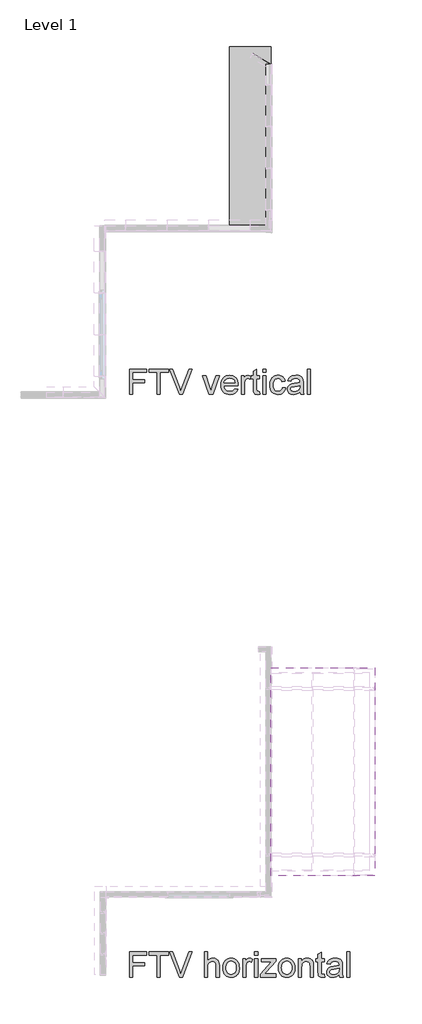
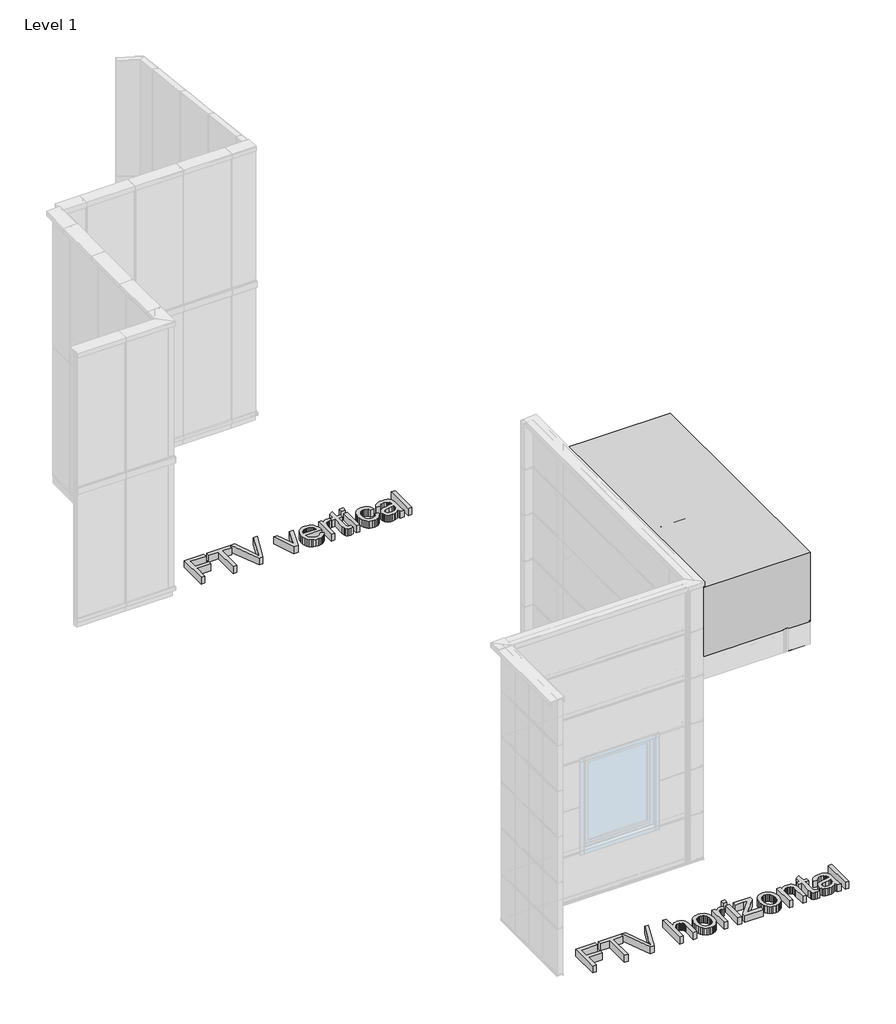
# One storey, part 16 of 16: 4 proxies.
"""IFC4 building model written with IfcOpenShell, lengths in millimetres."""

from ifc_helpers import new_model, si_unit, frame, origin, origin_with_axes, place, context, project, spatial, polyline, outline, extrude, element, save

model = new_model("IFC4")

# Units and contexts
model_context = context("Model", 3, world=origin())
ifc_project = project(units=[si_unit("LENGTHUNIT", "METRE", prefix="MILLI")], contexts=[model_context])

# Site, building, storey
site = spatial("IfcSite", under=ifc_project)
building = spatial("IfcBuilding", under=site)
storey = spatial("IfcBuildingStorey", under=building, Name="Level 1", Elevation=0.0)

# Proxies
placement = place(None, origin())
element("IfcBuildingElementProxy", 1, Name="600mm Arial", ObjectType="600mm Arial", at=placement, inside=storey, context=model_context, shape_type="SweptSolid", body=[
    extrude(outline(polyline([(-3390.6707281, -13959.8952349), (-3390.6707281, -13357.157374), (-2985.7062278, -13357.157374), (-2985.7062278, -13432.4996066), (-3315.3284955, -13432.4996066), (-3315.3284955, -13611.437409), (-3032.7951232, -13611.437409), (-3032.7951232, -13686.7796417), (-3315.3284955, -13686.7796417), (-3315.3284955, -13959.8952349), (-3390.6707281, -13959.8952349)])), origin_with_axes(), (0.0, 0.0, 1.0), 150.0),
    extrude(outline(polyline([(-2731.4261928, -13959.8952349), (-2731.4261928, -13432.4996066), (-2929.1995534, -13432.4996066), (-2929.1995534, -13357.157374), (-2458.3105995, -13357.157374), (-2458.3105995, -13432.4996066), (-2656.0839602, -13432.4996066), (-2656.0839602, -13959.8952349), (-2731.4261928, -13959.8952349)])), origin_with_axes(), (0.0, 0.0, 1.0), 150.0),
    extrude(outline(polyline([(-2195.4957022, -13959.8952349), (-2435.354763, -13357.157374), (-2354.7150297, -13357.157374), (-2194.171327, -13791.4052811), (-2161.6505586, -13889.2618918), (-2129.5712487, -13791.4052811), (-1968.5860876, -13357.157374), (-1887.9463542, -13357.157374), (-2117.651872, -13959.8952349), (-2195.4957022, -13959.8952349)])), origin_with_axes(), (0.0, 0.0, 1.0), 150.0),
    extrude(outline(polyline([(-1591.8749245, -13959.8952349), (-1591.8749245, -13357.157374), (-1516.5326919, -13357.157374), (-1516.5326919, -13578.7694879), (-1488.8587688, -13547.7386416), (-1457.7819373, -13525.5737514), (-1423.3021973, -13512.2748172), (-1385.4195488, -13507.8418392), (-1339.912546, -13512.6794874), (-1300.8066899, -13527.1924322), (-1270.0149669, -13550.2402392), (-1249.4503634, -13580.6824743), (-1237.8620805, -13622.5106571), (-1233.9993196, -13679.7163074), (-1233.9993196, -13959.8952349), (-1309.3415522, -13959.8952349), (-1309.3415522, -13687.5154057), (-1310.8406713, -13662.0763657), (-1315.3380287, -13640.3529339), (-1322.8336244, -13622.3451102), (-1333.3274583, -13608.0528947), (-1346.5712101, -13597.1727847), (-1362.3165595, -13589.4012775), (-1380.5635065, -13584.7383732), (-1401.312051, -13583.1840718), (-1433.1522377, -13587.3779266), (-1463.0426498, -13599.9594908), (-1487.8011081, -13619.7147539), (-1504.2454333, -13645.4297054), (-1513.4608772, -13679.6059428), (-1516.5326919, -13724.7450636), (-1516.5326919, -13959.8952349), (-1591.8749245, -13959.8952349)])), origin_with_axes(), (0.0, 0.0, 1.0), 150.0),
    extrude(outline(polyline([(-1149.2393079, -13738.5774266), (-1145.1650148, -13681.2522147), (-1132.9421355, -13631.8548598), (-1112.57067, -13590.3853619), (-1084.0506184, -13556.843721), (-1055.3374286, -13535.4053977), (-1023.6443948, -13520.0923096), (-988.9715167, -13510.9044568), (-951.3187945, -13507.8418392), (-909.7527276, -13511.5712429), (-872.1689832, -13522.7594541), (-838.5675615, -13541.4064727), (-808.9484624, -13567.5122988), (-784.7740168, -13600.1940156), (-767.5065556, -13638.5687062), (-757.1460789, -13682.6363707), (-753.6925867, -13732.3970091), (-755.219297, -13772.7260728), (-759.7994278, -13808.5117939), (-767.4329792, -13839.7541723), (-778.1199512, -13866.4532081), (-791.7269865, -13889.5148107), (-808.1207279, -13909.8448894), (-827.3011754, -13927.4434444), (-849.268329, -13942.3104755), (-873.1668632, -13954.1240861), (-898.1414521, -13962.5623793), (-924.1920959, -13967.6253553), (-951.3187945, -13969.313014), (-993.4918667, -13965.5974058), (-1031.425099, -13954.4505814), (-1065.1184912, -13935.8725406), (-1094.5720434, -13909.8632835), (-1118.4889716, -13876.8642686), (-1135.5724918, -13837.3169541), (-1145.8226039, -13791.2213401), (-1149.2393079, -13738.5774266)]), holes=[polyline([(-1073.8970753, -13738.4302738), (-1071.7173745, -13774.9747515), (-1065.178272, -13806.6172016), (-1054.2797679, -13833.3576241), (-1039.0218622, -13855.1960191), (-1020.4622155, -13872.1599776), (-999.6584887, -13884.2770908), (-976.6106817, -13891.5473587), (-951.3187945, -13893.9707813), (-926.155666, -13891.5335631), (-903.1998295, -13884.2219085), (-882.451285, -13872.0358174), (-863.9100324, -13854.9752899), (-848.6521267, -13832.9207642), (-837.7536226, -13805.7526789), (-831.2145201, -13773.4710338), (-829.0348193, -13736.075829), (-831.2283157, -13700.6901796), (-837.8088049, -13669.875464), (-848.7762869, -13643.6316822), (-864.1307616, -13621.9588341), (-882.7409921, -13604.9948756), (-903.475741, -13592.8777624), (-926.3350085, -13585.6074945), (-951.3187945, -13583.1840718), (-976.6106817, -13585.5982974), (-999.6584887, -13592.8409742), (-1020.4622155, -13604.9121022), (-1039.0218622, -13621.8116813), (-1054.2797679, -13643.5856969), (-1065.178272, -13670.2801342), (-1071.7173745, -13701.8949931), (-1073.8970753, -13738.4302738)])]), origin_with_axes(), (0.0, 0.0, 1.0), 150.0),
    extrude(outline(polyline([(-668.932575, -13959.8952349), (-668.932575, -13517.2596183), (-603.0081215, -13517.2596183), (-603.0081215, -13582.7426134), (-578.6543334, -13544.7771915), (-556.2135317, -13522.4099662), (-533.6991536, -13511.483871), (-509.1246363, -13507.8418392), (-471.6006728, -13513.6543747), (-433.4880981, -13531.0919813), (-458.6512266, -13598.6351156), (-485.1387302, -13587.0468328), (-511.6262339, -13583.1840718), (-534.1222179, -13586.89968), (-554.2269689, -13598.0465044), (-570.468959, -13615.7784166), (-581.3766602, -13639.2492879), (-590.5369218, -13681.3349881), (-593.5903424, -13727.2466611), (-593.5903424, -13959.8952349), (-668.932575, -13959.8952349)])), origin_with_axes(), (0.0, 0.0, 1.0), 150.0),
    extrude(outline(polyline([(-386.3992027, -13432.4996066), (-386.3992027, -13357.157374), (-311.0569701, -13357.157374), (-311.0569701, -13432.4996066), (-386.3992027, -13432.4996066)])), origin_with_axes(), (0.0, 0.0, 1.0), 150.0),
    extrude(outline(polyline([(-386.3992027, -13959.8952349), (-386.3992027, -13517.2596183), (-311.0569701, -13517.2596183), (-311.0569701, -13959.8952349), (-386.3992027, -13959.8952349)])), origin_with_axes(), (0.0, 0.0, 1.0), 150.0),
    extrude(outline(polyline([(-245.1325166, -13959.8952349), (-245.1325166, -13888.9675862), (14.8864776, -13592.6018509), (-62.0744358, -13592.6018509), (-226.2969584, -13592.6018509), (-226.2969584, -13517.2596183), (122.1608674, -13517.2596183), (122.1608674, -13581.2710854), (-108.4275672, -13844.2331356), (-143.7442387, -13884.5530023), (-56.6297822, -13884.5530023), (131.5786465, -13884.5530023), (131.5786465, -13959.8952349), (-245.1325166, -13959.8952349)])), origin_with_axes(), (0.0, 0.0, 1.0), 150.0),
    extrude(outline(polyline([(188.085321, -13738.5774266), (192.1596141, -13681.2522147), (204.3824933, -13631.8548598), (224.7539588, -13590.3853619), (253.2740105, -13556.843721), (281.9872002, -13535.4053977), (313.6802341, -13520.0923096), (348.3531122, -13510.9044568), (386.0058344, -13507.8418392), (427.5719013, -13511.5712429), (465.1556456, -13522.7594541), (498.7570674, -13541.4064727), (528.3761665, -13567.5122988), (552.5506121, -13600.1940156), (569.8180733, -13638.5687062), (580.1785499, -13682.6363707), (583.6320422, -13732.3970091), (582.1053319, -13772.7260728), (577.5252011, -13808.5117939), (569.8916497, -13839.7541723), (559.2046777, -13866.4532081), (545.5976424, -13889.5148107), (529.203901, -13909.8448894), (510.0234535, -13927.4434444), (488.0562998, -13942.3104755), (464.1577657, -13954.1240861), (439.1831768, -13962.5623793), (413.132533, -13967.6253553), (386.0058344, -13969.313014), (343.8327621, -13965.5974058), (305.8995299, -13954.4505814), (272.2061377, -13935.8725406), (242.7525854, -13909.8632835), (218.8356572, -13876.8642686), (201.7521371, -13837.3169541), (191.502025, -13791.2213401), (188.085321, -13738.5774266)]), holes=[polyline([(263.4275536, -13738.4302738), (265.6072544, -13774.9747515), (272.1463569, -13806.6172016), (283.044861, -13833.3576241), (298.3027667, -13855.1960191), (316.8624134, -13872.1599776), (337.6661402, -13884.2770908), (360.7139472, -13891.5473587), (386.0058344, -13893.9707813), (411.1689628, -13891.5335631), (434.1247993, -13884.2219085), (454.8733439, -13872.0358174), (473.4145964, -13854.9752899), (488.6725022, -13832.9207642), (499.5710063, -13805.7526789), (506.1101087, -13773.4710338), (508.2898096, -13736.075829), (506.0963132, -13700.6901796), (499.515824, -13669.875464), (488.548342, -13643.6316822), (473.1938672, -13621.9588341), (454.5836368, -13604.9948756), (433.8488878, -13592.8777624), (410.9896204, -13585.6074945), (386.0058344, -13583.1840718), (360.7139472, -13585.5982974), (337.6661402, -13592.8409742), (316.8624134, -13604.9121022), (298.3027667, -13621.8116813), (283.044861, -13643.5856969), (272.1463569, -13670.2801342), (265.6072544, -13701.8949931), (263.4275536, -13738.4302738)])]), origin_with_axes(), (0.0, 0.0, 1.0), 150.0),
    extrude(outline(polyline([(668.3920539, -13959.8952349), (668.3920539, -13517.2596183), (743.7342865, -13517.2596183), (743.7342865, -13579.0637935), (769.9090904, -13547.9041885), (801.3446069, -13525.6473278), (838.0408359, -13512.2932113), (879.9977775, -13507.8418392), (917.1354649, -13511.4286887), (951.1461554, -13522.189237), (979.5098572, -13538.780715), (999.7065787, -13559.8603533), (1013.410183, -13585.3729697), (1022.2945332, -13615.2633818), (1026.2676588, -13688.1040168), (1026.2676588, -13959.8952349), (950.9254262, -13959.8952349), (950.9254262, -13698.2575599), (948.7549224, -13659.2988566), (942.2434111, -13631.5973424), (930.2320639, -13611.7501087), (911.5620527, -13596.3542472), (887.6313289, -13586.4766157), (859.8378442, -13583.1840718), (836.9601826, -13585.0326788), (815.7103988, -13590.5784999), (796.0884929, -13599.8215351), (778.0944648, -13612.7617842), (763.0618868, -13630.8707754), (752.3243311, -13655.6200367), (745.8817976, -13687.0095679), (743.7342865, -13725.0393692), (743.7342865, -13959.8952349), (668.3920539, -13959.8952349)])), origin_with_axes(), (0.0, 0.0, 1.0), 150.0),
    extrude(outline(polyline([(1289.9654729, -13897.0609901), (1299.383252, -13962.1025269), (1243.0237303, -13969.313014), (1206.8609302, -13966.186017), (1179.89518, -13956.8050261), (1160.8388926, -13942.3472637), (1148.4044812, -13923.9899522), (1141.5618761, -13892.4624652), (1139.2810077, -13838.4941765), (1139.2810077, -13592.6018509), (1082.7743332, -13592.6018509), (1082.7743332, -13517.2596183), (1139.2810077, -13517.2596183), (1139.2810077, -13409.6909229), (1214.6232403, -13365.3979307), (1214.6232403, -13517.2596183), (1289.9654729, -13517.2596183), (1289.9654729, -13592.6018509), (1214.6232403, -13592.6018509), (1214.6232403, -13836.2868845), (1218.5963658, -13875.1352232), (1231.4722357, -13888.8940098), (1242.3431486, -13892.7015885), (1257.1503989, -13893.9707813), (1289.9654729, -13897.0609901)])), origin_with_axes(), (0.0, 0.0, 1.0), 150.0),
    extrude(outline(polyline([(1647.8410778, -13903.3885604), (1611.8438246, -13934.2538598), (1574.7797136, -13954.4505814), (1535.8026162, -13965.5974058), (1494.0664038, -13969.313014), (1460.5201644, -13967.0781308), (1431.1034004, -13960.3734815), (1405.8161117, -13949.1990659), (1384.6582985, -13933.554884), (1367.9518574, -13914.4342173), (1356.0186851, -13892.8303472), (1348.8587818, -13868.7432735), (1346.4721474, -13842.1729964), (1350.0773909, -13810.939815), (1360.8931216, -13782.5761132), (1377.5765701, -13758.2959015), (1398.7849671, -13739.3131906), (1423.7089723, -13724.9657928), (1451.5392452, -13714.5915205), (1516.7279347, -13703.260755), (1593.7624245, -13691.3413784), (1647.3996194, -13677.3618626), (1647.8410778, -13660.5864436), (1642.6539417, -13626.9620292), (1636.1700215, -13614.5092237), (1627.0925333, -13604.9626859), (1611.4023662, -13595.4345423), (1592.2908965, -13588.6287253), (1543.8040496, -13583.1840718), (1498.9224462, -13586.8077095), (1467.5789002, -13597.6786224), (1446.2049563, -13617.7833735), (1431.2321591, -13649.1085254), (1355.8899264, -13639.6907463), (1368.9681314, -13598.4879628), (1388.4842712, -13566.1143472), (1416.2593619, -13541.355889), (1454.1144192, -13522.9985774), (1500.4123683, -13511.6310238), (1553.5161343, -13507.8418392), (1604.4493965, -13511.1895654), (1644.8244455, -13521.2327438), (1675.2666806, -13536.3342997), (1696.4015012, -13554.8571582), (1710.4178052, -13577.7578124), (1719.5044905, -13605.9927555), (1723.1833104, -13671.9172091), (1723.1833104, -13765.6535414), (1727.0092832, -13896.5459553), (1732.6746659, -13928.9011768), (1742.0188686, -13959.8952349), (1666.676636, -13959.8952349), (1654.6101065, -13933.7020368), (1647.8410778, -13903.3885604)]), holes=[polyline([(1647.8410778, -13752.7040952), (1597.2205153, -13765.2488712), (1526.2928666, -13775.8070845), (1461.4720591, -13788.0207667), (1444.6046696, -13796.371688), (1432.1150758, -13807.8863945), (1424.389554, -13821.6819693), (1421.81438, -13836.8754957), (1427.4245804, -13859.2795092), (1444.2551817, -13877.6368208), (1471.9383018, -13889.8872912), (1510.1060588, -13893.9707813), (1550.5730783, -13889.4642269), (1586.3312082, -13875.9445636), (1615.3203094, -13856.0237535), (1635.4802428, -13832.313759), (1644.4197753, -13807.8863945), (1647.3996194, -13774.0412509), (1647.8410778, -13752.7040952)])]), origin_with_axes(), (0.0, 0.0, 1.0), 150.0),
    extrude(outline(polyline([(1826.7788803, -13959.8952349), (1826.7788803, -13357.157374), (1902.1211129, -13357.157374), (1902.1211129, -13959.8952349), (1826.7788803, -13959.8952349)])), origin_with_axes(), (0.0, 0.0, 1.0), 150.0),
])
element("IfcBuildingElementProxy", 2, Name="600mm Arial", ObjectType="600mm Arial", at=placement, inside=storey, context=model_context, shape_type="SweptSolid", body=[
    extrude(outline(polyline([(-3390.6707281, 40.1047651), (-3390.6707281, 642.842626), (-2985.7062278, 642.842626), (-2985.7062278, 567.5003934), (-3315.3284955, 567.5003934), (-3315.3284955, 388.562591), (-3032.7951232, 388.562591), (-3032.7951232, 313.2203583), (-3315.3284955, 313.2203583), (-3315.3284955, 40.1047651), (-3390.6707281, 40.1047651)])), origin_with_axes(), (0.0, 0.0, 1.0), 150.0),
    extrude(outline(polyline([(-2731.4261928, 40.1047651), (-2731.4261928, 567.5003934), (-2929.1995534, 567.5003934), (-2929.1995534, 642.842626), (-2458.3105995, 642.842626), (-2458.3105995, 567.5003934), (-2656.0839602, 567.5003934), (-2656.0839602, 40.1047651), (-2731.4261928, 40.1047651)])), origin_with_axes(), (0.0, 0.0, 1.0), 150.0),
    extrude(outline(polyline([(-2195.4957022, 40.1047651), (-2435.354763, 642.842626), (-2354.7150297, 642.842626), (-2194.171327, 208.5947189), (-2161.6505586, 110.7381082), (-2129.5712487, 208.5947189), (-1968.5860876, 642.842626), (-1887.9463542, 642.842626), (-2117.651872, 40.1047651), (-2195.4957022, 40.1047651)])), origin_with_axes(), (0.0, 0.0, 1.0), 150.0),
    extrude(outline(polyline([(-1483.2761595, 40.1047651), (-1638.9638199, 482.7403817), (-1559.2070033, 482.7403817), (-1464.8820598, 217.5710396), (-1436.4815697, 128.396444), (-1408.6696909, 212.5678445), (-1313.7561361, 482.7403817), (-1233.9993196, 482.7403817), (-1387.7739936, 40.1047651), (-1483.2761595, 40.1047651)])), origin_with_axes(), (0.0, 0.0, 1.0), 150.0),
    extrude(outline(polyline([(-858.1710733, 171.9536722), (-784.3003687, 162.5358931), (-795.6265356, 132.9489837), (-810.916631, 106.8753472), (-830.170655, 84.3149839), (-853.3886074, 65.2678936), (-880.331365, 50.1387465), (-910.7598045, 39.3322129), (-944.673926, 32.8482928), (-982.0737293, 30.686986), (-1028.8223338, 34.4163898), (-1070.4757727, 45.6046009), (-1107.034046, 64.2516196), (-1138.4971536, 90.3574457), (-1163.7982379, 123.1955123), (-1181.8704409, 162.0392524), (-1192.7137627, 206.8886662), (-1196.3282033, 257.7437535), (-1192.6769745, 310.3232876), (-1181.7232881, 356.667222), (-1163.4671441, 396.7755565), (-1137.9085425, 430.6482912), (-1106.5282083, 457.5588591), (-1070.8068665, 476.7806934), (-1030.7445173, 488.3137939), (-986.3411604, 492.1581608), (-943.3679449, 488.322991), (-904.5058106, 476.8174816), (-869.7547576, 457.6416326), (-839.114786, 430.795444), (-814.1034088, 396.9962857), (-796.2381394, 356.9615276), (-785.5189778, 310.6911696), (-781.9459239, 258.1852119), (-782.3873823, 237.8781257), (-1120.9859707, 237.8781257), (-1116.6219705, 207.8129697), (-1107.9445539, 181.4818159), (-1094.953721, 158.8846643), (-1077.6494716, 140.021515), (-1056.9882991, 125.1498854), (-1033.9266965, 114.5272927), (-1008.4646639, 108.1537372), (-980.6022013, 106.0292187), (-940.5030638, 109.965556), (-906.7314967, 121.774568), (-879.2874998, 142.1920188), (-858.1710733, 171.9536722)]), holes=[polyline([(-1120.9859707, 313.2203583), (-857.2881565, 313.2203583), (-867.4784878, 353.0251902), (-876.2432763, 368.6785691), (-887.4544801, 381.4992566), (-908.0006896, 396.9503004), (-931.3795904, 407.9867603), (-957.5911825, 414.6086362), (-986.635466, 416.8159282), (-1013.1275682, 415.0546931), (-1037.4215755, 409.770988), (-1059.5174878, 400.9648127), (-1079.4153052, 388.6361673), (-1096.1125493, 373.355269), (-1108.6067415, 355.6923347), (-1116.897882, 335.6473645), (-1120.9859707, 313.2203583)])]), origin_with_axes(), (0.0, 0.0, 1.0), 150.0),
    extrude(outline(polyline([(-706.6036913, 40.1047651), (-706.6036913, 482.7403817), (-640.6792378, 482.7403817), (-640.6792378, 417.2573866), (-616.3254497, 455.2228085), (-593.884648, 477.5900338), (-571.3702699, 488.516129), (-546.7957526, 492.1581608), (-509.2717891, 486.3456253), (-471.1592144, 468.9080187), (-496.3223429, 401.3648844), (-522.8098465, 412.9531672), (-549.2973502, 416.8159282), (-571.7933342, 413.10032), (-591.8980852, 401.9534956), (-608.1400753, 384.2215834), (-619.0477765, 360.7507121), (-628.2080381, 318.6650119), (-631.2614587, 272.7533389), (-631.2614587, 40.1047651), (-706.6036913, 40.1047651)])), origin_with_axes(), (0.0, 0.0, 1.0), 150.0),
    extrude(outline(polyline([(-263.9680747, 102.9390099), (-254.5502956, 37.8974731), (-310.9098173, 30.686986), (-347.0726174, 33.813983), (-374.0383677, 43.1949739), (-393.094655, 57.6527363), (-405.5290665, 76.0100478), (-412.3716716, 107.5375348), (-414.6525399, 161.5058235), (-414.6525399, 407.3981491), (-471.1592144, 407.3981491), (-471.1592144, 482.7403817), (-414.6525399, 482.7403817), (-414.6525399, 590.3090771), (-339.3103073, 634.6020693), (-339.3103073, 482.7403817), (-263.9680747, 482.7403817), (-263.9680747, 407.3981491), (-339.3103073, 407.3981491), (-339.3103073, 163.7131155), (-335.3371818, 124.8647768), (-322.4613119, 111.1059902), (-311.590399, 107.2984115), (-296.7831487, 106.0292187), (-263.9680747, 102.9390099)])), origin_with_axes(), (0.0, 0.0, 1.0), 150.0),
    extrude(outline(polyline([(-188.6258421, 567.5003934), (-188.6258421, 642.842626), (-113.2836095, 642.842626), (-113.2836095, 567.5003934), (-188.6258421, 567.5003934)])), origin_with_axes(), (0.0, 0.0, 1.0), 150.0),
    extrude(outline(polyline([(-188.6258421, 40.1047651), (-188.6258421, 482.7403817), (-113.2836095, 482.7403817), (-113.2836095, 40.1047651), (-188.6258421, 40.1047651)])), origin_with_axes(), (0.0, 0.0, 1.0), 150.0),
    extrude(outline(polyline([(282.2631117, 200.2070094), (357.6053443, 190.7892303), (349.4107729, 155.238034), (336.5992824, 123.7795249), (319.1708729, 96.413703), (297.1255443, 73.1405683), (271.3921988, 54.5671261), (242.8997382, 41.3003816), (211.6481628, 33.3403349), (177.6374723, 30.686986), (135.3816266, 34.3887986), (97.4943796, 45.4942363), (63.9757314, 64.0032992), (34.8256818, 89.9159873), (11.2306503, 122.7448568), (-5.6229436, 162.0024642), (-15.7350999, 207.6888095), (-19.1058187, 259.8038926), (-13.3484655, 326.8503863), (-6.151774, 357.0213084), (3.9235942, 384.9573474), (16.9466168, 410.0974832), (32.9862718, 431.8806959), (52.0425591, 450.3069853), (74.1154789, 465.3763515), (98.207151, 477.0933931), (123.3196957, 485.4627085), (149.4531129, 490.4842977), (176.6074027, 492.1581608), (210.0340805, 489.8588983), (240.269382, 482.9611109), (267.3133071, 471.4647986), (291.165856, 455.3699613), (311.4223584, 435.044481), (327.678144, 410.8562399), (339.933213, 382.8052377), (348.1875653, 350.8914746), (272.8453326, 341.4736956), (259.1785165, 374.3439518), (237.8965431, 397.9067936), (210.1766348, 412.0886445), (177.1960139, 416.8159282), (151.5960256, 414.4890746), (128.5068318, 407.5085137), (107.9284327, 395.8742456), (89.8608282, 379.5862703), (75.150147, 358.2675086), (64.6425175, 331.5408817), (58.3379398, 299.4063894), (56.2364139, 261.8640318), (58.2919545, 223.7560556), (64.4585765, 191.2490828), (74.7362797, 164.3431134), (89.1250643, 143.0381474), (106.8339838, 126.8467411), (127.0720921, 115.2814508), (149.839389, 108.3422767), (175.1358747, 106.0292187), (214.1497603, 111.804966), (231.0217483, 119.0246501), (246.1370998, 129.132208), (259.0727505, 142.238004), (269.405636, 158.452403), (277.1357564, 177.7754048), (282.2631117, 200.2070094)])), origin_with_axes(), (0.0, 0.0, 1.0), 150.0),
    extrude(outline(polyline([(706.0631702, 96.6114396), (670.0659169, 65.7461402), (633.0018059, 45.5494186), (594.0247085, 34.4025942), (552.2884962, 30.686986), (518.7422568, 32.9218692), (489.3254927, 39.6265185), (464.0382041, 50.8009341), (442.8803908, 66.445116), (426.1739497, 85.5657827), (414.2407775, 107.1696528), (407.0808742, 131.2567265), (404.6942397, 157.8270036), (408.2994833, 189.060185), (419.1152139, 217.4238868), (435.7986624, 241.7040985), (457.0070594, 260.6868094), (481.9310646, 275.0342072), (509.7613375, 285.4084795), (574.9500271, 296.739245), (651.9845169, 308.6586216), (705.6217118, 322.6381374), (706.0631702, 339.4135564), (700.876034, 373.0379708), (694.3921139, 385.4907763), (685.3146256, 395.0373141), (669.6244585, 404.5654577), (650.5129889, 411.3712747), (602.0261419, 416.8159282), (557.1445385, 413.1922905), (525.8009925, 402.3213776), (504.4270486, 382.2166265), (489.4542514, 350.8914746), (414.1120188, 360.3092537), (427.1902237, 401.5120372), (446.7063636, 433.8856528), (474.4814542, 458.644111), (512.3365115, 477.0014226), (558.6344606, 488.3689762), (611.7382266, 492.1581608), (662.6714888, 488.8104346), (703.0465378, 478.7672562), (733.4887729, 463.6657003), (754.6235935, 445.1428418), (768.6398975, 422.2421876), (777.7265828, 394.0072445), (781.4054028, 328.0827909), (781.4054028, 234.3464586), (785.2313755, 103.4540447), (790.8967583, 71.0988232), (800.2409609, 40.1047651), (724.8987283, 40.1047651), (712.8321989, 66.2979632), (706.0631702, 96.6114396)]), holes=[polyline([(706.0631702, 247.2959048), (655.4426076, 234.7511288), (584.514959, 224.1929155), (519.6941514, 211.9792333), (502.8267619, 203.628312), (490.3371682, 192.1136055), (482.6116463, 178.3180307), (480.0364723, 163.1245043), (485.6466728, 140.7204908), (502.477274, 122.3631792), (530.1603942, 110.1127088), (568.3281512, 106.0292187), (608.7951706, 110.5357731), (644.5533006, 124.0554364), (673.5424018, 143.9762465), (693.7023351, 167.686241), (702.6418676, 192.1136055), (705.6217118, 225.9587491), (706.0631702, 247.2959048)])]), origin_with_axes(), (0.0, 0.0, 1.0), 150.0),
    extrude(outline(polyline([(885.0009726, 40.1047651), (885.0009726, 642.842626), (960.3432052, 642.842626), (960.3432052, 40.1047651), (885.0009726, 40.1047651)])), origin_with_axes(), (0.0, 0.0, 1.0), 150.0),
])
element("IfcBuildingElementProxy", 3, Name="Mass 3 : Mass 1", ObjectType="Mass 3 : Mass 1", at=placement, inside=storey, context=model_context, shape_type="SweptSolid", body=[
    extrude(outline(polyline([(2505.8844943, -6530.3930879), (2505.8844943, -11530.3930879), (5.8844943, -11530.3930879), (5.8844943, -6530.3930879), (2505.8844943, -6530.3930879)])), frame((0.0, 0.0, 3650.0), z_axis=(0.0, 0.0, 1.0), x_axis=(1.0, 0.0, 0.0)), (0.0, 0.0, 1.0), 2000.0),
])
element("IfcBuildingElementProxy", 4, Name="Mass 7 : Mass 2", ObjectType="Mass 7 : Mass 2", at=placement, inside=storey, context=model_context, shape_type="SweptSolid", body=[
    extrude(outline(polyline([(4089.6069121, 150.0), (8389.6069121, 650.0), (8389.6069121, 150.0), (4089.6069121, 150.0)])), frame((-994.1155057, 0.0, 0.0), z_axis=(1.0, 0.0, 0.0), x_axis=(0.0, 1.0, 0.0)), (0.0, 0.0, 1.0), 1000.0),
])

save(model, "model.ifc")
